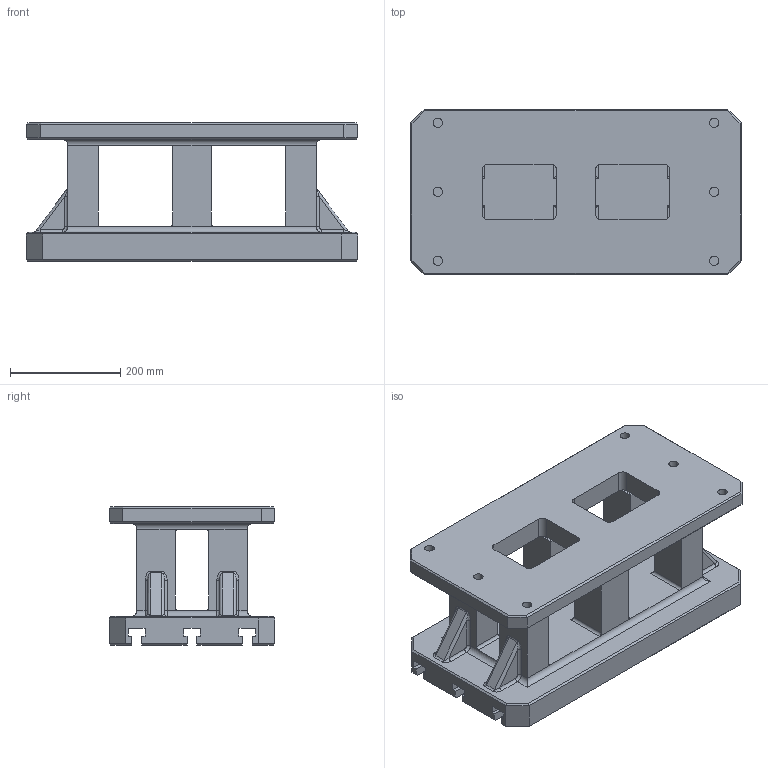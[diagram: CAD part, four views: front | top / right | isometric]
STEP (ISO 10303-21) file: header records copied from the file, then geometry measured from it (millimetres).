
FILE_DESCRIPTION((''),'2;1');
FILE_NAME('FG_WH_RISTL_TSL18NP003','2026-05-24T10:36:43',('Admin'),(''),'CREO PARAMETRIC BY PTC INC, 2025010','CREO PARAMETRIC BY PTC INC, 2025010','');
FILE_SCHEMA(('CONFIG_CONTROL_DESIGN'));
Length unit declared in the file: millimetre
Products named in the file (1): FG_WH_RISTL_TSL18NP003
Bounding box: 600 x 300 x 250 mm (x, y, z)
Volume: 18061710.2 mm3; surface area: 1187556.2 mm2
Topology: 1 solids, 1 shells, 276 faces, 690 edges, 412 vertices
Faces by surface type: plane 148, cylinder 104, bspline 24
Entity records: 9286 total; most frequent: CARTESIAN_POINT 2760, ORIENTED_EDGE 1380, DIRECTION 1298, EDGE_CURVE 690, VECTOR 474, LINE 474, AXIS2_PLACEMENT_3D 412, VERTEX_POINT 412
